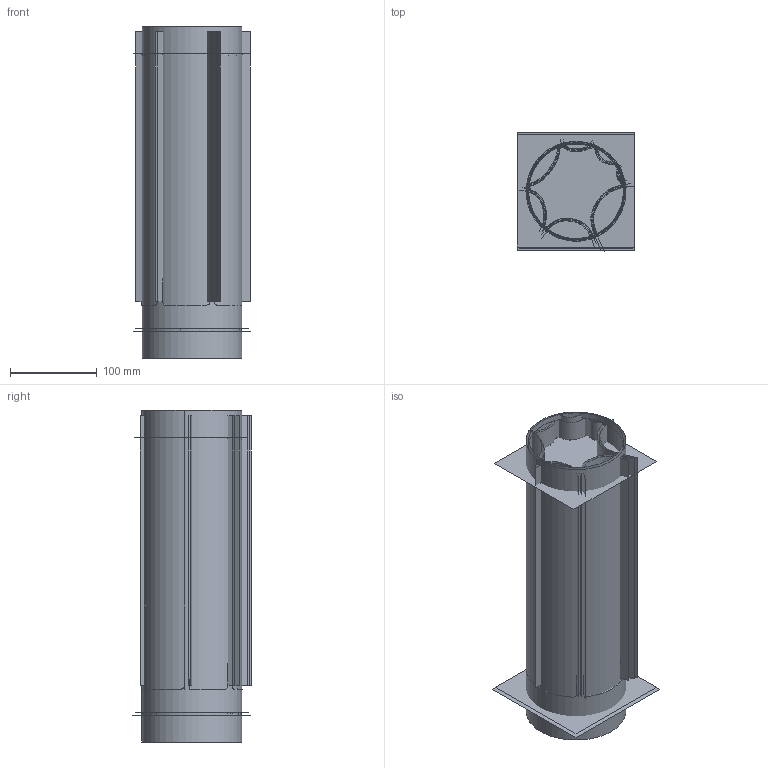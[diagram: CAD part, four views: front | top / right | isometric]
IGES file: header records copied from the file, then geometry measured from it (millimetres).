
Global section: file name: C:\Users\utente\Desktop\3d sito\BAMBU\BAMBU h 32.igs; native system: Rhinoceros ( Mar  9 2011 ); preprocessor: Trout Lake IGES 012 Mar  9 2011; date: 170517.150950; units: millimetre
Bounding box: 135.6 x 136.1 x 382.5 mm (x, y, z)
Surface area: 763520.8 mm2 (no closed solid volume)
Topology: 0 solids, 0 shells, 83 faces, 301 edges, 280 vertices
Faces by surface type: bspline 83
